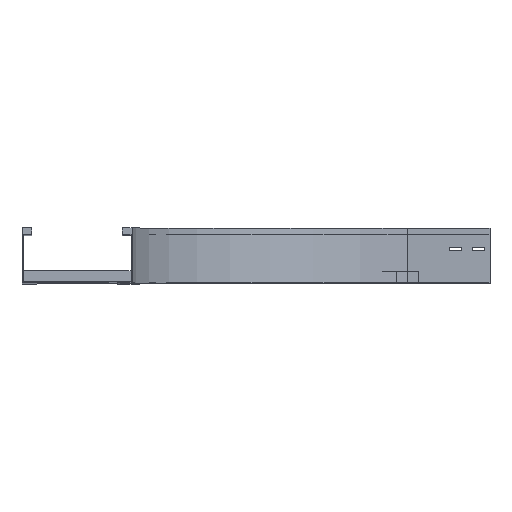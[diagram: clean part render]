
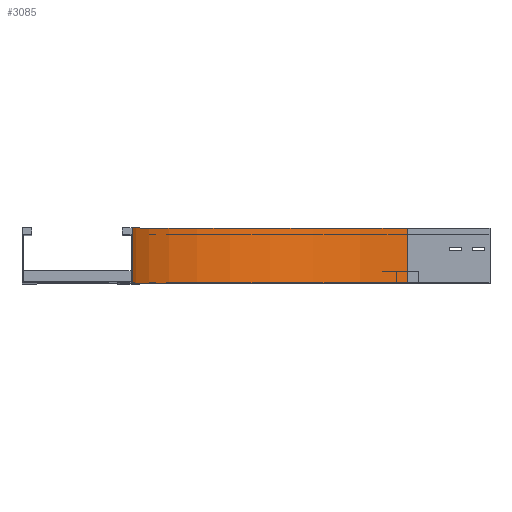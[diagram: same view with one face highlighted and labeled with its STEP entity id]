
A CAD part, top view. The second image highlights one B-rep face of the part: STEP entity #3085.
In plain terms, the highlighted cylindrical face has radius 500 mm (diameter 1000 mm), a partial arc.
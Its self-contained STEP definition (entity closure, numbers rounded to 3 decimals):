
#17 = DIRECTION ( 'NONE',  ( -1., 0., 0. ) ) ;
#60 = CARTESIAN_POINT ( 'NONE',  ( 0., 0., -150. ) ) ;
#166 = AXIS2_PLACEMENT_3D ( 'NONE', #4218, #973, #241 ) ;
#241 = DIRECTION ( 'NONE',  ( 0., 0., -1. ) ) ;
#316 = EDGE_CURVE ( 'NONE', #1658, #396, #2862, .T. ) ;
#318 = DIRECTION ( 'NONE',  ( -1., 0., 0. ) ) ;
#396 = VERTEX_POINT ( 'NONE', #1195 ) ;
#613 = CYLINDRICAL_SURFACE ( 'NONE', #166, 500. ) ;
#774 = CARTESIAN_POINT ( 'NONE',  ( 500., 100., -650. ) ) ;
#973 = DIRECTION ( 'NONE',  ( 0., -1., 0. ) ) ;
#1085 = CIRCLE ( 'NONE', #2744, 500. ) ;
#1160 = AXIS2_PLACEMENT_3D ( 'NONE', #3891, #2858, #318 ) ;
#1195 = CARTESIAN_POINT ( 'NONE',  ( 0., 100., -150. ) ) ;
#1223 = EDGE_LOOP ( 'NONE', ( #3241, #2729, #2643, #3987 ) ) ;
#1603 = FACE_OUTER_BOUND ( 'NONE', #1223, .T. ) ;
#1658 = VERTEX_POINT ( 'NONE', #60 ) ;
#1782 = VECTOR ( 'NONE', #3482, 1000. ) ;
#1842 = EDGE_CURVE ( 'NONE', #396, #2880, #3232, .T. ) ;
#1890 = CARTESIAN_POINT ( 'NONE',  ( 0., 0., -150. ) ) ;
#1946 = EDGE_CURVE ( 'NONE', #1658, #1986, #1085, .T. ) ;
#1986 = VERTEX_POINT ( 'NONE', #3794 ) ;
#2643 = ORIENTED_EDGE ( 'NONE', *, *, #1946, .T. ) ;
#2699 = CARTESIAN_POINT ( 'NONE',  ( 500., 0., -150. ) ) ;
#2729 = ORIENTED_EDGE ( 'NONE', *, *, #316, .F. ) ;
#2744 = AXIS2_PLACEMENT_3D ( 'NONE', #2699, #2981, #17 ) ;
#2858 = DIRECTION ( 'NONE',  ( 0., -1., 0. ) ) ;
#2860 = LINE ( 'NONE', #2882, #3668 ) ;
#2862 = LINE ( 'NONE', #1890, #1782 ) ;
#2880 = VERTEX_POINT ( 'NONE', #774 ) ;
#2882 = CARTESIAN_POINT ( 'NONE',  ( 500., 0., -650. ) ) ;
#2981 = DIRECTION ( 'NONE',  ( 0., -1., 0. ) ) ;
#3085 = ADVANCED_FACE ( 'NONE', ( #1603 ), #613, .F. ) ;
#3090 = EDGE_CURVE ( 'NONE', #1986, #2880, #2860, .T. ) ;
#3232 = CIRCLE ( 'NONE', #1160, 500. ) ;
#3241 = ORIENTED_EDGE ( 'NONE', *, *, #1842, .F. ) ;
#3482 = DIRECTION ( 'NONE',  ( 0., 1., 0. ) ) ;
#3583 = DIRECTION ( 'NONE',  ( 0., 1., 0. ) ) ;
#3668 = VECTOR ( 'NONE', #3583, 1000. ) ;
#3794 = CARTESIAN_POINT ( 'NONE',  ( 500., 0., -650. ) ) ;
#3891 = CARTESIAN_POINT ( 'NONE',  ( 500., 100., -150. ) ) ;
#3987 = ORIENTED_EDGE ( 'NONE', *, *, #3090, .T. ) ;
#4218 = CARTESIAN_POINT ( 'NONE',  ( 500., 0., -150. ) ) ;
